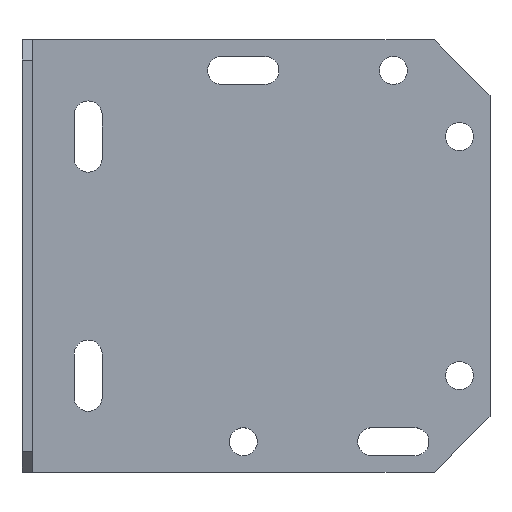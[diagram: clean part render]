
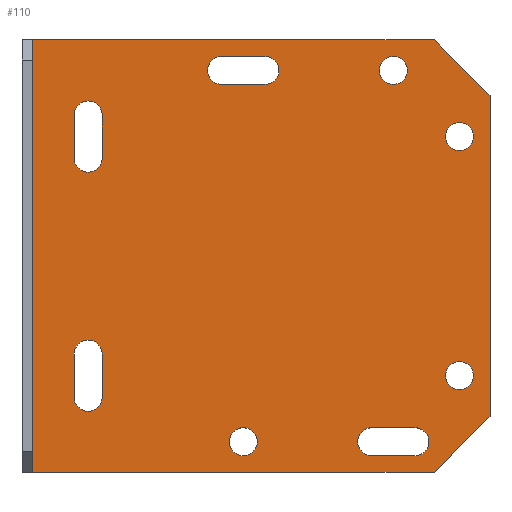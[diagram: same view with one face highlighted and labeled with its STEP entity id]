
A CAD part, top view. The second image highlights one B-rep face of the part: STEP entity #110.
In plain terms, the highlighted planar face has unit normal (0, 0, 1).
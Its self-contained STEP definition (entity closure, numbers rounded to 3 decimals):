
#110=ADVANCED_FACE('',(#189,#190,#191,#192,#193,#194,#195,#196,#197),#152,
 .T.);
#152=PLANE('',#1017);
#189=FACE_BOUND('',#234,.T.);
#190=FACE_BOUND('',#235,.T.);
#191=FACE_BOUND('',#236,.T.);
#192=FACE_BOUND('',#237,.T.);
#193=FACE_BOUND('',#238,.T.);
#194=FACE_BOUND('',#239,.T.);
#195=FACE_BOUND('',#240,.T.);
#196=FACE_BOUND('',#241,.T.);
#197=FACE_BOUND('',#242,.T.);
#234=EDGE_LOOP('',(#432,#433,#434,#435,#436,#437));
#235=EDGE_LOOP('',(#438,#439,#440,#441));
#236=EDGE_LOOP('',(#442,#443,#444,#445));
#237=EDGE_LOOP('',(#446));
#238=EDGE_LOOP('',(#447));
#239=EDGE_LOOP('',(#448));
#240=EDGE_LOOP('',(#449));
#241=EDGE_LOOP('',(#450,#451,#452,#453));
#242=EDGE_LOOP('',(#454,#455,#456,#457));
#298=CIRCLE('',#998,2.75);
#299=CIRCLE('',#1000,2.75);
#300=CIRCLE('',#1002,2.75);
#301=CIRCLE('',#1004,2.75);
#302=CIRCLE('',#1009,2.75);
#303=CIRCLE('',#1010,2.75);
#304=CIRCLE('',#1011,2.75);
#305=CIRCLE('',#1012,2.75);
#306=CIRCLE('',#1013,2.75);
#307=CIRCLE('',#1014,2.75);
#308=CIRCLE('',#1015,2.75);
#309=CIRCLE('',#1016,2.75);
#432=ORIENTED_EDGE('',*,*,#700,.T.);
#433=ORIENTED_EDGE('',*,*,#757,.T.);
#434=ORIENTED_EDGE('',*,*,#754,.T.);
#435=ORIENTED_EDGE('',*,*,#758,.T.);
#436=ORIENTED_EDGE('',*,*,#692,.T.);
#437=ORIENTED_EDGE('',*,*,#759,.F.);
#438=ORIENTED_EDGE('',*,*,#752,.F.);
#439=ORIENTED_EDGE('',*,*,#760,.T.);
#440=ORIENTED_EDGE('',*,*,#742,.F.);
#441=ORIENTED_EDGE('',*,*,#761,.T.);
#442=ORIENTED_EDGE('',*,*,#748,.T.);
#443=ORIENTED_EDGE('',*,*,#762,.T.);
#444=ORIENTED_EDGE('',*,*,#739,.T.);
#445=ORIENTED_EDGE('',*,*,#763,.T.);
#446=ORIENTED_EDGE('',*,*,#747,.F.);
#447=ORIENTED_EDGE('',*,*,#746,.F.);
#448=ORIENTED_EDGE('',*,*,#745,.F.);
#449=ORIENTED_EDGE('',*,*,#744,.F.);
#450=ORIENTED_EDGE('',*,*,#764,.T.);
#451=ORIENTED_EDGE('',*,*,#733,.T.);
#452=ORIENTED_EDGE('',*,*,#765,.T.);
#453=ORIENTED_EDGE('',*,*,#736,.T.);
#454=ORIENTED_EDGE('',*,*,#766,.T.);
#455=ORIENTED_EDGE('',*,*,#727,.T.);
#456=ORIENTED_EDGE('',*,*,#767,.T.);
#457=ORIENTED_EDGE('',*,*,#730,.T.);
#602=VERTEX_POINT('',#1384);
#603=VERTEX_POINT('',#1386);
#608=VERTEX_POINT('',#1399);
#609=VERTEX_POINT('',#1401);
#632=VERTEX_POINT('',#1452);
#633=VERTEX_POINT('',#1454);
#634=VERTEX_POINT('',#1458);
#635=VERTEX_POINT('',#1460);
#636=VERTEX_POINT('',#1464);
#637=VERTEX_POINT('',#1466);
#638=VERTEX_POINT('',#1470);
#639=VERTEX_POINT('',#1472);
#640=VERTEX_POINT('',#1476);
#641=VERTEX_POINT('',#1478);
#642=VERTEX_POINT('',#1482);
#643=VERTEX_POINT('',#1484);
#644=VERTEX_POINT('',#1488);
#645=VERTEX_POINT('',#1491);
#646=VERTEX_POINT('',#1494);
#647=VERTEX_POINT('',#1497);
#648=VERTEX_POINT('',#1500);
#649=VERTEX_POINT('',#1501);
#650=VERTEX_POINT('',#1506);
#651=VERTEX_POINT('',#1508);
#652=VERTEX_POINT('',#1512);
#653=VERTEX_POINT('',#1513);
#692=EDGE_CURVE('',#603,#602,#807,.T.);
#700=EDGE_CURVE('',#609,#608,#813,.T.);
#727=EDGE_CURVE('',#633,#632,#827,.T.);
#730=EDGE_CURVE('',#635,#634,#830,.T.);
#733=EDGE_CURVE('',#637,#636,#833,.T.);
#736=EDGE_CURVE('',#639,#638,#836,.T.);
#739=EDGE_CURVE('',#641,#640,#839,.T.);
#742=EDGE_CURVE('',#642,#643,#842,.T.);
#744=EDGE_CURVE('',#644,#644,#298,.T.);
#745=EDGE_CURVE('',#645,#645,#299,.T.);
#746=EDGE_CURVE('',#646,#646,#300,.T.);
#747=EDGE_CURVE('',#647,#647,#301,.T.);
#748=EDGE_CURVE('',#648,#649,#844,.T.);
#752=EDGE_CURVE('',#650,#651,#848,.T.);
#754=EDGE_CURVE('',#652,#653,#850,.T.);
#757=EDGE_CURVE('',#608,#652,#853,.T.);
#758=EDGE_CURVE('',#653,#603,#854,.T.);
#759=EDGE_CURVE('',#609,#602,#855,.T.);
#760=EDGE_CURVE('',#650,#643,#302,.T.);
#761=EDGE_CURVE('',#642,#651,#303,.T.);
#762=EDGE_CURVE('',#649,#641,#304,.T.);
#763=EDGE_CURVE('',#640,#648,#305,.T.);
#764=EDGE_CURVE('',#638,#637,#306,.T.);
#765=EDGE_CURVE('',#636,#639,#307,.T.);
#766=EDGE_CURVE('',#634,#633,#308,.T.);
#767=EDGE_CURVE('',#632,#635,#309,.T.);
#807=LINE('',#1385,#895);
#813=LINE('',#1400,#901);
#827=LINE('',#1453,#915);
#830=LINE('',#1459,#918);
#833=LINE('',#1465,#921);
#836=LINE('',#1471,#924);
#839=LINE('',#1477,#927);
#842=LINE('',#1483,#930);
#844=LINE('',#1499,#932);
#848=LINE('',#1507,#936);
#850=LINE('',#1511,#938);
#853=LINE('',#1517,#941);
#854=LINE('',#1518,#942);
#855=LINE('',#1519,#943);
#895=VECTOR('',#1102,1.);
#901=VECTOR('',#1114,1.);
#915=VECTOR('',#1158,1.);
#918=VECTOR('',#1163,1.);
#921=VECTOR('',#1168,1.);
#924=VECTOR('',#1173,1.);
#927=VECTOR('',#1178,1.);
#930=VECTOR('',#1183,1.);
#932=VECTOR('',#1203,1.);
#936=VECTOR('',#1209,1.);
#938=VECTOR('',#1213,1.);
#941=VECTOR('',#1218,1.);
#942=VECTOR('',#1219,1.);
#943=VECTOR('',#1220,1.);
#998=AXIS2_PLACEMENT_3D('',#1487,#1187,#1188);
#1000=AXIS2_PLACEMENT_3D('',#1490,#1191,#1192);
#1002=AXIS2_PLACEMENT_3D('',#1493,#1195,#1196);
#1004=AXIS2_PLACEMENT_3D('',#1496,#1199,#1200);
#1009=AXIS2_PLACEMENT_3D('',#1520,#1221,#1222);
#1010=AXIS2_PLACEMENT_3D('',#1521,#1223,#1224);
#1011=AXIS2_PLACEMENT_3D('',#1522,#1225,#1226);
#1012=AXIS2_PLACEMENT_3D('',#1523,#1227,#1228);
#1013=AXIS2_PLACEMENT_3D('',#1524,#1229,#1230);
#1014=AXIS2_PLACEMENT_3D('',#1525,#1231,#1232);
#1015=AXIS2_PLACEMENT_3D('',#1526,#1233,#1234);
#1016=AXIS2_PLACEMENT_3D('',#1527,#1235,#1236);
#1017=AXIS2_PLACEMENT_3D('',#1528,#1237,#1238);
#1102=DIRECTION('',(-1.,0.,0.));
#1114=DIRECTION('',(1.,0.,0.));
#1158=DIRECTION('',(-1.,0.,0.));
#1163=DIRECTION('',(1.,0.,0.));
#1168=DIRECTION('',(0.,-1.,0.));
#1173=DIRECTION('',(0.,1.,0.));
#1178=DIRECTION('',(0.,-1.,0.));
#1183=DIRECTION('',(-1.,0.,0.));
#1187=DIRECTION('',(0.,0.,1.));
#1188=DIRECTION('',(1.,0.,0.));
#1191=DIRECTION('',(0.,0.,1.));
#1192=DIRECTION('',(1.,0.,0.));
#1195=DIRECTION('',(0.,0.,1.));
#1196=DIRECTION('',(1.,0.,0.));
#1199=DIRECTION('',(0.,0.,1.));
#1200=DIRECTION('',(1.,0.,0.));
#1203=DIRECTION('',(0.,1.,0.));
#1209=DIRECTION('',(1.,0.,0.));
#1213=DIRECTION('',(0.,1.,0.));
#1218=DIRECTION('',(0.707,0.707,0.));
#1219=DIRECTION('',(-0.707,0.707,0.));
#1220=DIRECTION('',(0.,1.,0.));
#1221=DIRECTION('',(0.,0.,-1.));
#1222=DIRECTION('',(1.,0.,0.));
#1223=DIRECTION('',(0.,0.,-1.));
#1224=DIRECTION('',(1.,0.,0.));
#1225=DIRECTION('',(0.,0.,-1.));
#1226=DIRECTION('',(1.,0.,0.));
#1227=DIRECTION('',(0.,0.,-1.));
#1228=DIRECTION('',(1.,0.,0.));
#1229=DIRECTION('',(0.,0.,-1.));
#1230=DIRECTION('',(1.,0.,0.));
#1231=DIRECTION('',(0.,0.,-1.));
#1232=DIRECTION('',(1.,0.,0.));
#1233=DIRECTION('',(0.,0.,-1.));
#1234=DIRECTION('',(1.,0.,0.));
#1235=DIRECTION('',(0.,0.,-1.));
#1236=DIRECTION('',(1.,0.,0.));
#1237=DIRECTION('',(0.,0.,1.));
#1238=DIRECTION('',(1.,0.,0.));
#1384=CARTESIAN_POINT('',(2.1,85.,2.));
#1385=CARTESIAN_POINT('',(92.,85.,2.));
#1386=CARTESIAN_POINT('',(81.,85.,2.));
#1399=CARTESIAN_POINT('',(81.,0.,2.));
#1400=CARTESIAN_POINT('',(0.,0.,2.));
#1401=CARTESIAN_POINT('',(2.1,0.,2.));
#1452=CARTESIAN_POINT('',(39.25,76.25,2.));
#1453=CARTESIAN_POINT('',(50.5,76.25,2.));
#1454=CARTESIAN_POINT('',(47.75,76.25,2.));
#1458=CARTESIAN_POINT('',(47.75,81.75,2.));
#1459=CARTESIAN_POINT('',(36.5,81.75,2.));
#1460=CARTESIAN_POINT('',(39.25,81.75,2.));
#1464=CARTESIAN_POINT('',(15.75,14.75,2.));
#1465=CARTESIAN_POINT('',(15.75,26.,2.));
#1466=CARTESIAN_POINT('',(15.75,23.25,2.));
#1470=CARTESIAN_POINT('',(10.25,23.25,2.));
#1471=CARTESIAN_POINT('',(10.25,12.,2.));
#1472=CARTESIAN_POINT('',(10.25,14.75,2.));
#1476=CARTESIAN_POINT('',(15.75,61.75,2.));
#1477=CARTESIAN_POINT('',(15.75,73.,2.));
#1478=CARTESIAN_POINT('',(15.75,70.25,2.));
#1482=CARTESIAN_POINT('',(77.25,8.75,2.));
#1483=CARTESIAN_POINT('',(80.,8.75,2.));
#1484=CARTESIAN_POINT('',(68.75,8.75,2.));
#1487=CARTESIAN_POINT('',(43.5,6.,2.));
#1488=CARTESIAN_POINT('',(46.25,6.,2.));
#1490=CARTESIAN_POINT('',(73.,79.,2.));
#1491=CARTESIAN_POINT('',(75.75,79.,2.));
#1493=CARTESIAN_POINT('',(86.,19.,2.));
#1494=CARTESIAN_POINT('',(88.75,19.,2.));
#1496=CARTESIAN_POINT('',(86.,66.,2.));
#1497=CARTESIAN_POINT('',(88.75,66.,2.));
#1499=CARTESIAN_POINT('',(10.25,59.,2.));
#1500=CARTESIAN_POINT('',(10.25,61.75,2.));
#1501=CARTESIAN_POINT('',(10.25,70.25,2.));
#1506=CARTESIAN_POINT('',(68.75,3.25,2.));
#1507=CARTESIAN_POINT('',(66.,3.25,2.));
#1508=CARTESIAN_POINT('',(77.25,3.25,2.));
#1511=CARTESIAN_POINT('',(92.,0.,2.));
#1512=CARTESIAN_POINT('',(92.,11.,2.));
#1513=CARTESIAN_POINT('',(92.,74.,2.));
#1517=CARTESIAN_POINT('',(116.5,35.5,2.));
#1518=CARTESIAN_POINT('',(93.,73.,2.));
#1519=CARTESIAN_POINT('',(2.1,0.,2.));
#1520=CARTESIAN_POINT('',(68.75,6.,2.));
#1521=CARTESIAN_POINT('',(77.25,6.,2.));
#1522=CARTESIAN_POINT('',(13.,70.25,2.));
#1523=CARTESIAN_POINT('',(13.,61.75,2.));
#1524=CARTESIAN_POINT('',(13.,23.25,2.));
#1525=CARTESIAN_POINT('',(13.,14.75,2.));
#1526=CARTESIAN_POINT('',(47.75,79.,2.));
#1527=CARTESIAN_POINT('',(39.25,79.,2.));
#1528=CARTESIAN_POINT('',(86.,66.,2.));
